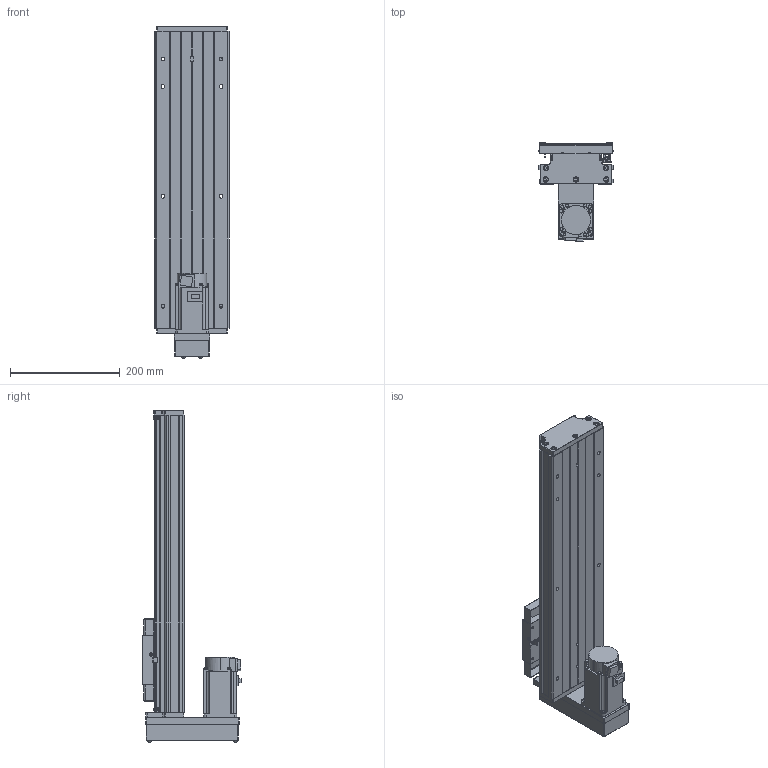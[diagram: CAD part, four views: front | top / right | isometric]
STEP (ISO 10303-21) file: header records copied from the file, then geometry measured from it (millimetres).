
FILE_DESCRIPTION (( 'STEP AP203' ), '1' );
FILE_NAME ('CTH130-350-BM-M40-C4.step', '2023-06-30T02:44:32', ( '微软用户' ), ( '微软中国' ), 'SwSTEP 2.0', 'SolidWorks 2020', '' );
FILE_SCHEMA (( 'CONFIG_CONTROL_DESIGN' ));
Length unit declared in the file: millimetre
Products named in the file (20): GB T308.1-2013-6.35; GBT 70.1-M3℅5; GTH14-015-2_CTHA86-015-2; GTH14-004; GBT77-2000 M3×3; GTH14-033; GTH14-005; CTH130-031; CTH130-350-BM-M40-C4; GB1155-6X6; GBT 70.2-M3¡Á5_M3¡Á6; CTHA60-017; GBT70.1 M5℅16; す晦芛蹟隊 M3℅5; GTH14-001_350; EE_SX911P_R; HG-KN43J-S100; CTH130-002_GTH14-002; CTHA60-016; GBT 70.2-M4¡Á35_M4¡Á35
Assembly tree (60 placements, depth 2):
  CTH130-350-BM-M40-C4
    GTH14-001_350
    CTH130-002_GTH14-002
    GB T308.1-2013-6.35  x2
    GTH14-004
    GTH14-005
    GB1155-6X6  x2
    GBT70.1 M5℅16  x10
    CTHA60-017  x3
    EE_SX911P_R  x3
    CTHA60-016  x2
    GBT 70.1-M3℅5  x6
    GBT77-2000 M3×3  x6
    CTH130-031
    GBT 70.2-M3¡Á5_M3¡Á6  x8
    す晦芛蹟隊 M3℅5  x6
    HG-KN43J-S100
    GBT 70.2-M4¡Á35_M4¡Á35  x4
    GTH14-015-2_CTHA86-015-2
    GTH14-033
Bounding box: 135 x 179.8 x 604.2 mm (x, y, z)
Volume: 3428023.5 mm3; surface area: 627618.8 mm2
Topology: 63 solids, 63 shells, 2425 faces, 5773 edges, 3569 vertices
Faces by surface type: plane 1308, cylinder 638, cone 299, torus 124, sphere 36, bspline 20
Entity records: 43616 total; most frequent: CARTESIAN_POINT 9797, DIRECTION 6342, ORIENTED_EDGE 6252, EDGE_CURVE 3126, AXIS2_PLACEMENT_3D 2158, LINE 2026, VECTOR 2026, VERTEX_POINT 1979
